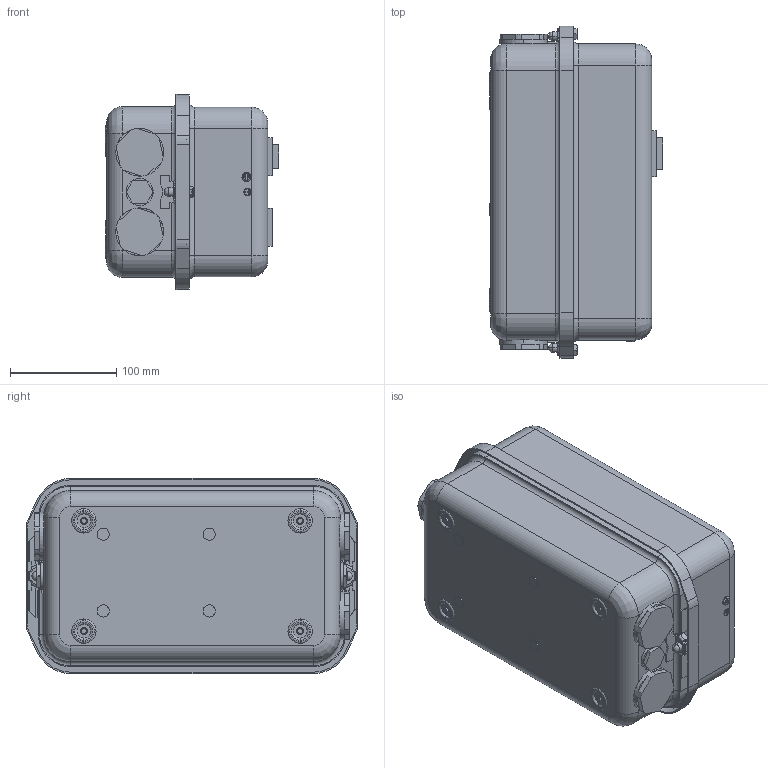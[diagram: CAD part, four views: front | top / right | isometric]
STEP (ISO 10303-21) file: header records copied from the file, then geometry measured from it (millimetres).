
FILE_DESCRIPTION(('FreeCAD Model'),'2;1');
FILE_NAME('C:/Users/Metaltex-99/Desktop/CPM65.stp','2020-08-10T11:14:45' ,('Engenharia Metaltex'),('Metaltex'), 'Open CASCADE STEP processor 7.3','FreeCAD','Unknown');
FILE_SCHEMA(('AUTOMOTIVE_DESIGN { 1 0 10303 214 1 1 1 1 }'));
Products named in the file (1): CPM65
Bounding box: 163.6 x 313 x 184 mm (x, y, z)
Volume: 6821425.5 mm3; surface area: 269036.7 mm2
Topology: 8 solids, 8 shells, 558 faces, 4244 edges, 12228 vertices
Faces by surface type: plane 366, cylinder 144, torus 26, revolution 12, cone 6, sphere 4
Entity records: 75077 total; most frequent: CARTESIAN_POINT 23275, DIRECTION 9022, LINE 5218, VECTOR 5218, GEOMETRIC_CURVE_SET 2829, ORIENTED_EDGE 2824, PCURVE 2824, DEFINITIONAL_REPRESENTATION 2824
